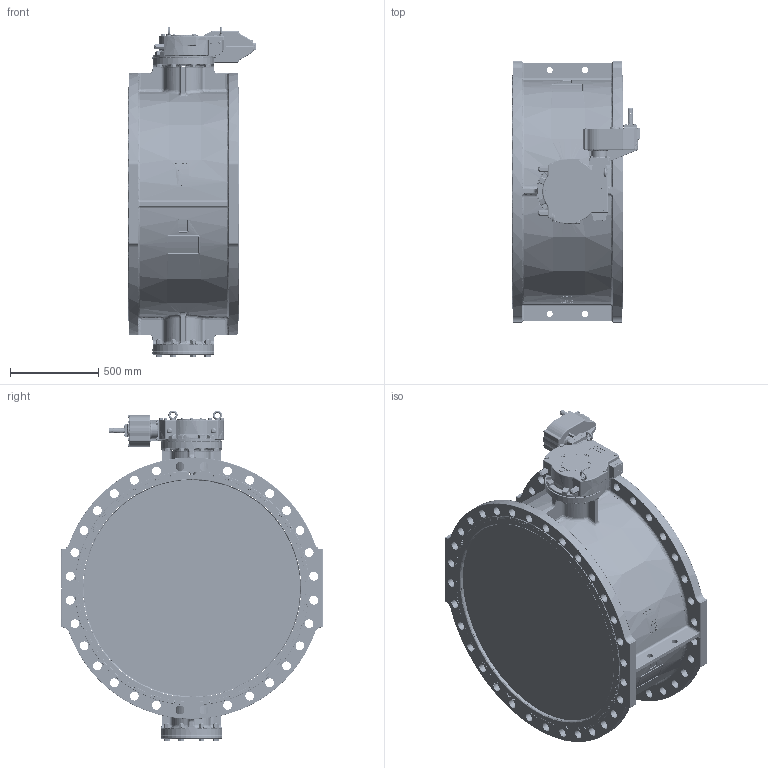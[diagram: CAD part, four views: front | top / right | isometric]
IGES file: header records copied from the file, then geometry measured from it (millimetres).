
Start section: SolidWorks IGES file using analytic representation for surfaces
Global section: file name: C:\Documents and Settings\Paji\Desktop\756120011400501\Part11.IGS; native system: SolidWorks 2008; preprocessor: SolidWorks 2008; author: paji; date: 100929.153835; units: millimetre
Bounding box: 729 x 1485 x 1879.46 mm (x, y, z)
Surface area: 8834840.3 mm2 (no closed solid volume)
Topology: 0 solids, 0 shells, 3338 faces, 52944 edges, 52878 vertices
Faces by surface type: bspline 2106, revolution 1232
